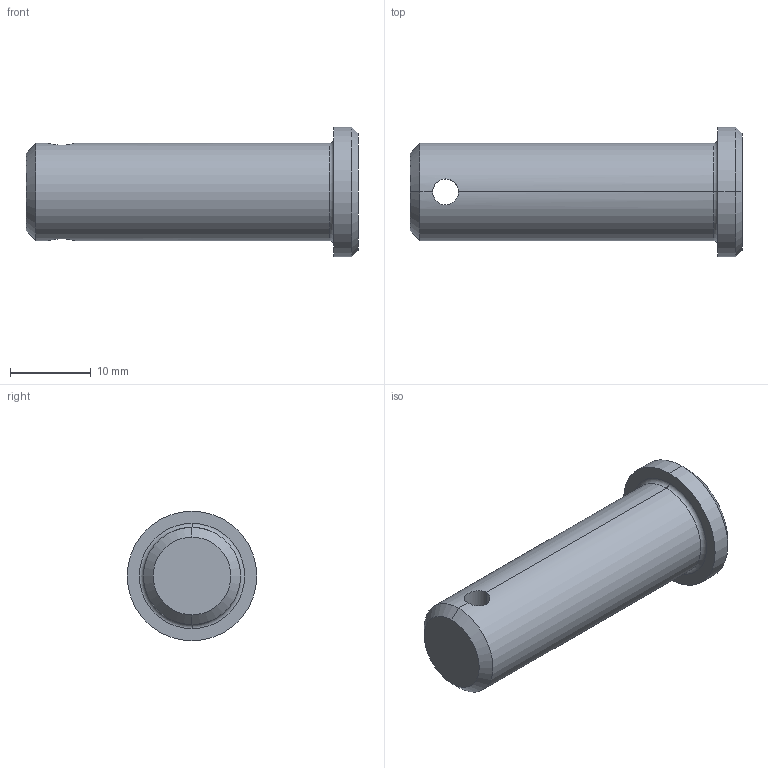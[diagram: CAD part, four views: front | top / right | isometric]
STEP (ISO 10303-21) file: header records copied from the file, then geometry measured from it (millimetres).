
FILE_DESCRIPTION (( 'STEP AP203' ), '1' );
FILE_NAME ('Wiberger-sms2360_12x38.step', '2012-10-09T08:57:33', ( 'Magnus' ), ( 'Wiberger' ), 'SwSTEP 2.0', 'SolidWorks 2011', '' );
FILE_SCHEMA (( 'CONFIG_CONTROL_DESIGN' ));
Length unit declared in the file: millimetre
Products named in the file (1): Wiberger-sms2360_12x38
Bounding box: 41 x 16 x 16 mm (x, y, z)
Volume: 4766.4 mm3; surface area: 2027 mm2
Topology: 1 solids, 1 shells, 15 faces, 32 edges, 18 vertices
Faces by surface type: cylinder 6, cone 4, plane 3, torus 2
Entity records: 579 total; most frequent: CARTESIAN_POINT 170, DIRECTION 76, ORIENTED_EDGE 64, EDGE_CURVE 32, AXIS2_PLACEMENT_3D 32, VERTEX_POINT 18, EDGE_LOOP 16, CIRCLE 16
